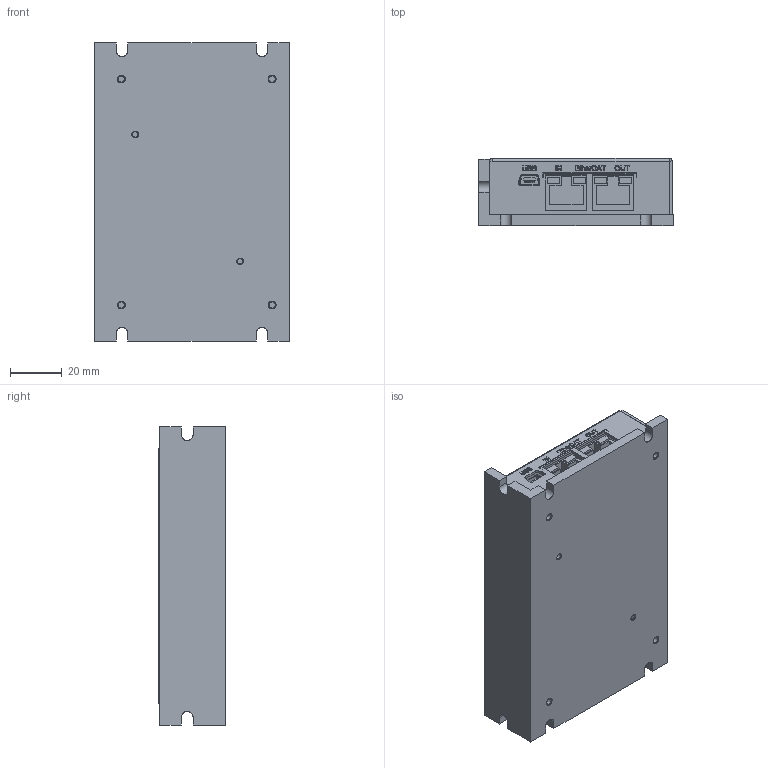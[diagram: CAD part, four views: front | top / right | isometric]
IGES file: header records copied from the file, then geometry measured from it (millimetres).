
Start section: SolidWorks IGES file using analytic representation for surfaces
Global section: file name: E:\Elmomc-site\products\gold-dc-whistle.IGS; native system: SolidWorks 2008; preprocessor: SolidWorks 2008; author: shlomo; date: 100915.145610; units: millimetre
Bounding box: 75 x 25.8 x 115 mm (x, y, z)
Surface area: 63566 mm2 (no closed solid volume)
Topology: 0 solids, 0 shells, 3855 faces, 27932 edges, 27926 vertices
Faces by surface type: bspline 3397, revolution 458
